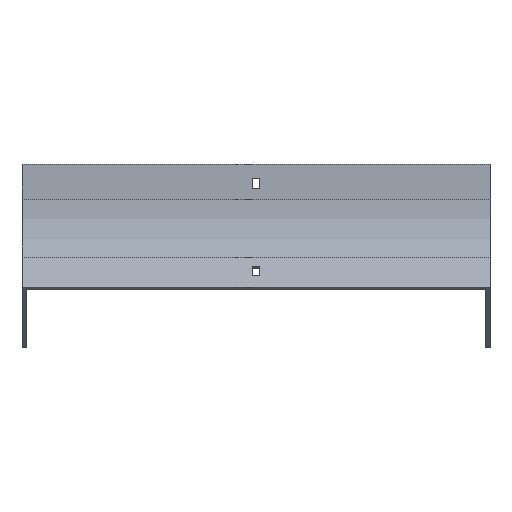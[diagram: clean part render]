
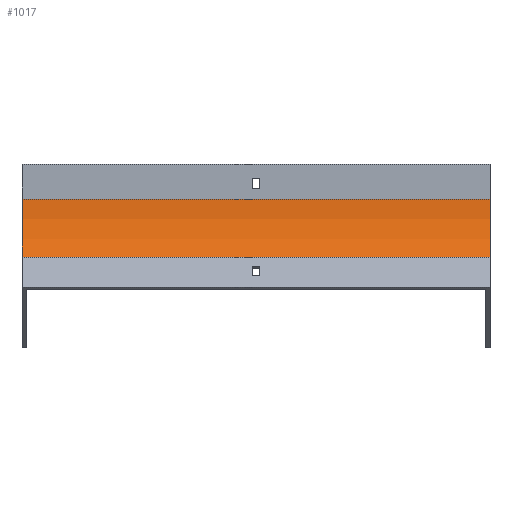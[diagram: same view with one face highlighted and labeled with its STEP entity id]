
A CAD part, front view. The second image highlights one B-rep face of the part: STEP entity #1017.
In plain terms, the highlighted cylindrical face has radius 100 mm (diameter 200 mm), a partial arc.
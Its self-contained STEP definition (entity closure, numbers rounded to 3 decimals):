
#71 = DIRECTION ( 'NONE',  ( 0., 0., 1. ) ) ;
#111 = VERTEX_POINT ( 'NONE', #1020 ) ;
#166 = EDGE_CURVE ( 'NONE', #1731, #1547, #183, .T. ) ;
#170 = CARTESIAN_POINT ( 'NONE',  ( 202., -13.397, -80. ) ) ;
#183 = LINE ( 'NONE', #1844, #252 ) ;
#252 = VECTOR ( 'NONE', #1818, 1000. ) ;
#341 = CARTESIAN_POINT ( 'NONE',  ( -202., -13.397, -80. ) ) ;
#344 = EDGE_CURVE ( 'NONE', #111, #1850, #1115, .T. ) ;
#345 = AXIS2_PLACEMENT_3D ( 'NONE', #1125, #1720, #1581 ) ;
#388 = EDGE_CURVE ( 'NONE', #111, #1731, #1474, .T. ) ;
#392 = DIRECTION ( 'NONE',  ( -1., 0., 0. ) ) ;
#419 = DIRECTION ( 'NONE',  ( -1., 0., 0. ) ) ;
#450 = AXIS2_PLACEMENT_3D ( 'NONE', #561, #419, #1603 ) ;
#475 = ORIENTED_EDGE ( 'NONE', *, *, #166, .F. ) ;
#493 = ORIENTED_EDGE ( 'NONE', *, *, #751, .T. ) ;
#516 = CARTESIAN_POINT ( 'NONE',  ( -202., 0., -30. ) ) ;
#561 = CARTESIAN_POINT ( 'NONE',  ( -202., -100., -30. ) ) ;
#694 = CARTESIAN_POINT ( 'NONE',  ( 202., 0., -30. ) ) ;
#751 = EDGE_CURVE ( 'NONE', #1850, #1547, #941, .T. ) ;
#906 = VECTOR ( 'NONE', #1290, 1000. ) ;
#941 = CIRCLE ( 'NONE', #450, 100. ) ;
#1017 = ADVANCED_FACE ( 'NONE', ( #1099 ), #1269, .F. ) ;
#1020 = CARTESIAN_POINT ( 'NONE',  ( 202., 0., -30. ) ) ;
#1089 = EDGE_LOOP ( 'NONE', ( #493, #475, #1879, #1368 ) ) ;
#1099 = FACE_OUTER_BOUND ( 'NONE', #1089, .T. ) ;
#1109 = CARTESIAN_POINT ( 'NONE',  ( 202., -100., -30. ) ) ;
#1115 = LINE ( 'NONE', #694, #906 ) ;
#1125 = CARTESIAN_POINT ( 'NONE',  ( 202., -100., -30. ) ) ;
#1269 = CYLINDRICAL_SURFACE ( 'NONE', #1913, 100. ) ;
#1290 = DIRECTION ( 'NONE',  ( -1., 0., 0. ) ) ;
#1368 = ORIENTED_EDGE ( 'NONE', *, *, #344, .T. ) ;
#1474 = CIRCLE ( 'NONE', #345, 100. ) ;
#1547 = VERTEX_POINT ( 'NONE', #341 ) ;
#1581 = DIRECTION ( 'NONE',  ( 0., 0., 1. ) ) ;
#1603 = DIRECTION ( 'NONE',  ( 0., 0., 1. ) ) ;
#1720 = DIRECTION ( 'NONE',  ( -1., 0., 0. ) ) ;
#1731 = VERTEX_POINT ( 'NONE', #170 ) ;
#1818 = DIRECTION ( 'NONE',  ( -1., 0., 0. ) ) ;
#1844 = CARTESIAN_POINT ( 'NONE',  ( 202., -13.397, -80. ) ) ;
#1850 = VERTEX_POINT ( 'NONE', #516 ) ;
#1879 = ORIENTED_EDGE ( 'NONE', *, *, #388, .F. ) ;
#1913 = AXIS2_PLACEMENT_3D ( 'NONE', #1109, #392, #71 ) ;
